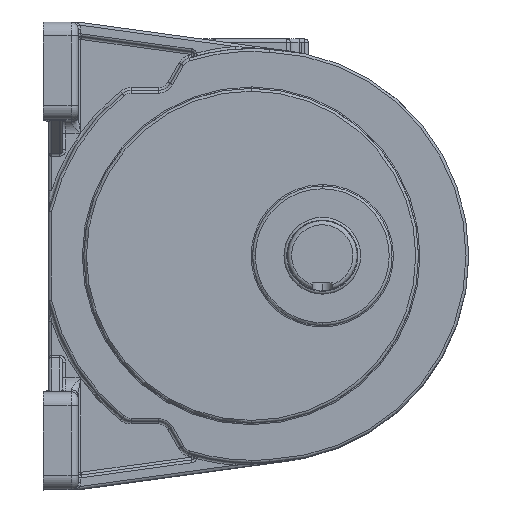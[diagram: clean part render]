
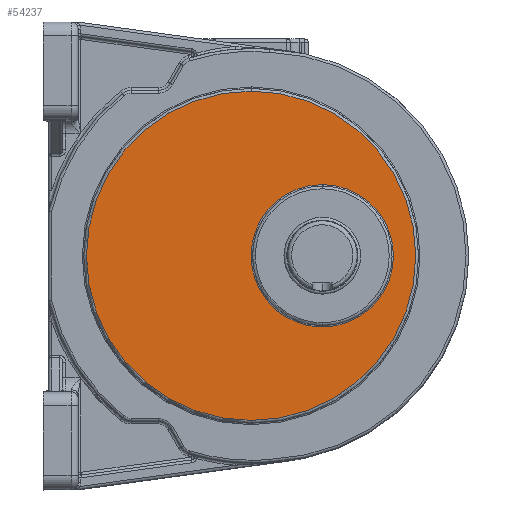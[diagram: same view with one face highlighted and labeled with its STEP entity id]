
A CAD part, top view. The second image highlights one B-rep face of the part: STEP entity #54237.
In plain terms, the highlighted planar face has unit normal (0, 0, 1).
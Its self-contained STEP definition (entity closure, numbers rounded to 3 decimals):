
#54153=CARTESIAN_POINT('',(6230.36,-1614.222,309.896));
#54154=VERTEX_POINT('',#54153);
#54164=CARTESIAN_POINT('',(6230.317,-1512.222,309.896));
#54165=VERTEX_POINT('',#54164);
#54173=CARTESIAN_POINT('',(6229.576,-1614.216,309.896));
#54174=VERTEX_POINT('',#54173);
#54175=CARTESIAN_POINT('',(6230.338,-1563.222,309.896));
#54176=DIRECTION('',(0.,0.,1.));
#54177=DIRECTION('',(0.,1.,0.));
#54178=AXIS2_PLACEMENT_3D('',#54175,#54176,#54177);
#54179=CIRCLE('',#54178,51.);
#54180=EDGE_CURVE('',#54165,#54174,#54179,.T.);
#54182=CARTESIAN_POINT('',(6230.338,-1563.222,309.896));
#54183=DIRECTION('',(0.,0.,-1.));
#54184=DIRECTION('',(0.,-1.,0.));
#54185=AXIS2_PLACEMENT_3D('',#54182,#54183,#54184);
#54186=CIRCLE('',#54185,51.);
#54187=EDGE_CURVE('',#54154,#54174,#54186,.T.);
#54192=CARTESIAN_POINT('',(6179.338,-1563.222,309.896));
#54193=DIRECTION('',(0.,0.,1.));
#54194=DIRECTION('',(0.,-1.,0.));
#54195=AXIS2_PLACEMENT_3D('',#54192,#54193,#54194);
#54196=PLANE('',#54195);
#54197=CARTESIAN_POINT('',(6179.338,-1445.222,309.896));
#54198=VERTEX_POINT('',#54197);
#54199=CARTESIAN_POINT('',(6179.338,-1681.222,309.896));
#54200=VERTEX_POINT('',#54199);
#54201=CARTESIAN_POINT('',(6179.338,-1563.222,309.896));
#54202=DIRECTION('',(0.,0.,-1.));
#54203=DIRECTION('',(0.,1.,0.));
#54204=AXIS2_PLACEMENT_3D('',#54201,#54202,#54203);
#54205=CIRCLE('',#54204,118.);
#54206=EDGE_CURVE('',#54198,#54200,#54205,.T.);
#54207=ORIENTED_EDGE('',*,*,#54206,.F.);
#54208=CARTESIAN_POINT('',(6179.338,-1563.222,309.896));
#54209=DIRECTION('',(0.,0.,-1.));
#54210=DIRECTION('',(0.,-1.,0.));
#54211=AXIS2_PLACEMENT_3D('',#54208,#54209,#54210);
#54212=CIRCLE('',#54211,118.);
#54213=EDGE_CURVE('',#54200,#54198,#54212,.T.);
#54214=ORIENTED_EDGE('',*,*,#54213,.F.);
#54215=EDGE_LOOP('',(#54207,#54214));
#54216=FACE_BOUND('',#54215,.T.);
#54217=ORIENTED_EDGE('',*,*,#54187,.T.);
#54218=ORIENTED_EDGE('',*,*,#54180,.F.);
#54219=CARTESIAN_POINT('',(6231.101,-1512.228,309.896));
#54220=VERTEX_POINT('',#54219);
#54221=CARTESIAN_POINT('',(6230.338,-1563.222,309.896));
#54222=DIRECTION('',(0.,0.,-1.));
#54223=DIRECTION('',(0.,1.,0.));
#54224=AXIS2_PLACEMENT_3D('',#54221,#54222,#54223);
#54225=CIRCLE('',#54224,51.);
#54226=EDGE_CURVE('',#54165,#54220,#54225,.T.);
#54227=ORIENTED_EDGE('',*,*,#54226,.T.);
#54228=CARTESIAN_POINT('',(6230.338,-1563.222,309.896));
#54229=DIRECTION('',(0.,0.,1.));
#54230=DIRECTION('',(0.,-1.,0.));
#54231=AXIS2_PLACEMENT_3D('',#54228,#54229,#54230);
#54232=CIRCLE('',#54231,51.);
#54233=EDGE_CURVE('',#54154,#54220,#54232,.T.);
#54234=ORIENTED_EDGE('',*,*,#54233,.F.);
#54235=EDGE_LOOP('',(#54217,#54218,#54227,#54234));
#54236=FACE_BOUND('',#54235,.T.);
#54237=ADVANCED_FACE('',(#54216,#54236),#54196,.T.);
